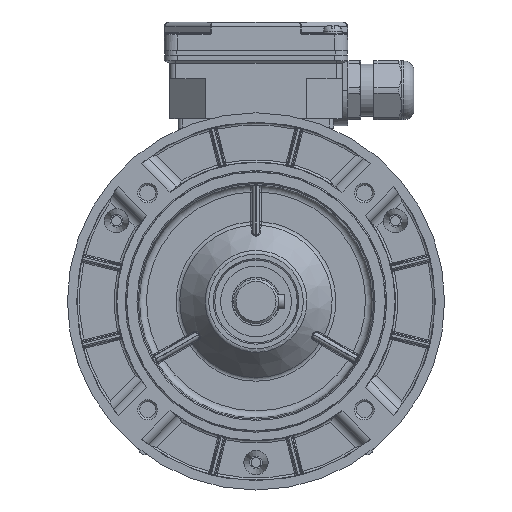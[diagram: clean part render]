
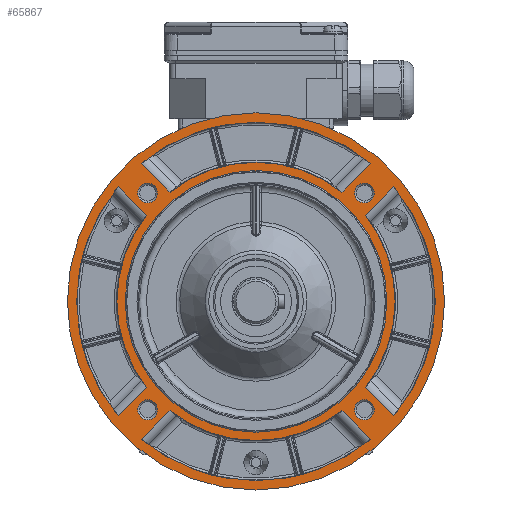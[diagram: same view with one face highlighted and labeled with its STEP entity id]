
A CAD part, left-side view. The second image highlights one B-rep face of the part: STEP entity #65867.
In plain terms, the highlighted planar face has unit normal (-1, 0, 0).
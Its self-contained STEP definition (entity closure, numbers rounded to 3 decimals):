
#3384=LINE('',#97045,#6656);
#3385=LINE('',#97050,#6657);
#3386=LINE('',#97056,#6658);
#3387=LINE('',#97060,#6659);
#3388=LINE('',#97061,#6660);
#3389=LINE('',#97066,#6661);
#3390=LINE('',#97069,#6662);
#3391=LINE('',#97074,#6663);
#6656=VECTOR('',#76439,1000.);
#6657=VECTOR('',#76442,1000.);
#6658=VECTOR('',#76447,1000.);
#6659=VECTOR('',#76450,1000.);
#6660=VECTOR('',#76451,1000.);
#6661=VECTOR('',#76454,1000.);
#6662=VECTOR('',#76457,1000.);
#6663=VECTOR('',#76460,1000.);
#9521=PLANE('',#69291);
#14806=ORIENTED_EDGE('',*,*,#27267,.T.);
#14807=ORIENTED_EDGE('',*,*,#27268,.T.);
#14808=ORIENTED_EDGE('',*,*,#27269,.T.);
#14809=ORIENTED_EDGE('',*,*,#27270,.T.);
#14810=ORIENTED_EDGE('',*,*,#27271,.T.);
#14811=ORIENTED_EDGE('',*,*,#27245,.T.);
#14812=ORIENTED_EDGE('',*,*,#27272,.T.);
#14813=ORIENTED_EDGE('',*,*,#27273,.T.);
#14814=ORIENTED_EDGE('',*,*,#27274,.F.);
#14815=ORIENTED_EDGE('',*,*,#27275,.F.);
#14816=ORIENTED_EDGE('',*,*,#27276,.T.);
#14817=ORIENTED_EDGE('',*,*,#27277,.F.);
#14818=ORIENTED_EDGE('',*,*,#27278,.F.);
#14819=ORIENTED_EDGE('',*,*,#27279,.T.);
#14820=ORIENTED_EDGE('',*,*,#27280,.T.);
#14821=ORIENTED_EDGE('',*,*,#27281,.T.);
#14822=ORIENTED_EDGE('',*,*,#27282,.F.);
#14823=ORIENTED_EDGE('',*,*,#27283,.F.);
#14824=ORIENTED_EDGE('',*,*,#27284,.T.);
#14825=ORIENTED_EDGE('',*,*,#27285,.T.);
#14826=ORIENTED_EDGE('',*,*,#27286,.F.);
#14827=ORIENTED_EDGE('',*,*,#27287,.F.);
#27245=EDGE_CURVE('',#33829,#33829,#37834,.T.);
#27267=EDGE_CURVE('',#33835,#33835,#37850,.F.);
#27268=EDGE_CURVE('',#33836,#33836,#37851,.F.);
#27269=EDGE_CURVE('',#33837,#33837,#37852,.F.);
#27270=EDGE_CURVE('',#33838,#33838,#37853,.F.);
#27271=EDGE_CURVE('',#33839,#33839,#37854,.F.);
#27272=EDGE_CURVE('',#33840,#33841,#3384,.T.);
#27273=EDGE_CURVE('',#33841,#33842,#37855,.T.);
#27274=EDGE_CURVE('',#33843,#33842,#3385,.T.);
#27275=EDGE_CURVE('',#33840,#33843,#37856,.T.);
#27276=EDGE_CURVE('',#33844,#33845,#37857,.T.);
#27277=EDGE_CURVE('',#33846,#33845,#3386,.T.);
#27278=EDGE_CURVE('',#33847,#33846,#37858,.T.);
#27279=EDGE_CURVE('',#33847,#33844,#3387,.T.);
#27280=EDGE_CURVE('',#33848,#33849,#3388,.T.);
#27281=EDGE_CURVE('',#33849,#33850,#37859,.T.);
#27282=EDGE_CURVE('',#33851,#33850,#3389,.T.);
#27283=EDGE_CURVE('',#33848,#33851,#37860,.T.);
#27284=EDGE_CURVE('',#33852,#33853,#3390,.T.);
#27285=EDGE_CURVE('',#33853,#33854,#37861,.T.);
#27286=EDGE_CURVE('',#33855,#33854,#3391,.T.);
#27287=EDGE_CURVE('',#33852,#33855,#37862,.T.);
#33829=VERTEX_POINT('',#96974);
#33835=VERTEX_POINT('',#97036);
#33836=VERTEX_POINT('',#97038);
#33837=VERTEX_POINT('',#97040);
#33838=VERTEX_POINT('',#97042);
#33839=VERTEX_POINT('',#97044);
#33840=VERTEX_POINT('',#97046);
#33841=VERTEX_POINT('',#97047);
#33842=VERTEX_POINT('',#97049);
#33843=VERTEX_POINT('',#97051);
#33844=VERTEX_POINT('',#97054);
#33845=VERTEX_POINT('',#97055);
#33846=VERTEX_POINT('',#97057);
#33847=VERTEX_POINT('',#97059);
#33848=VERTEX_POINT('',#97062);
#33849=VERTEX_POINT('',#97063);
#33850=VERTEX_POINT('',#97065);
#33851=VERTEX_POINT('',#97067);
#33852=VERTEX_POINT('',#97070);
#33853=VERTEX_POINT('',#97071);
#33854=VERTEX_POINT('',#97073);
#33855=VERTEX_POINT('',#97075);
#37834=CIRCLE('',#69254,80.);
#37850=CIRCLE('',#69292,55.5);
#37851=CIRCLE('',#69293,4.2);
#37852=CIRCLE('',#69294,4.2);
#37853=CIRCLE('',#69295,4.2);
#37854=CIRCLE('',#69296,4.2);
#37855=CIRCLE('',#69297,59.);
#37856=CIRCLE('',#69298,76.);
#37857=CIRCLE('',#69299,59.);
#37858=CIRCLE('',#69300,76.);
#37859=CIRCLE('',#69301,59.);
#37860=CIRCLE('',#69302,76.);
#37861=CIRCLE('',#69303,59.);
#37862=CIRCLE('',#69304,76.);
#40344=EDGE_LOOP('',(#14806));
#40345=EDGE_LOOP('',(#14807));
#40346=EDGE_LOOP('',(#14808));
#40347=EDGE_LOOP('',(#14809));
#40348=EDGE_LOOP('',(#14810));
#40349=EDGE_LOOP('',(#14811));
#40350=EDGE_LOOP('',(#14812,#14813,#14814,#14815));
#40351=EDGE_LOOP('',(#14816,#14817,#14818,#14819));
#40352=EDGE_LOOP('',(#14820,#14821,#14822,#14823));
#40353=EDGE_LOOP('',(#14824,#14825,#14826,#14827));
#43617=FACE_BOUND('',#40344,.T.);
#43618=FACE_BOUND('',#40345,.T.);
#43619=FACE_BOUND('',#40346,.T.);
#43620=FACE_BOUND('',#40347,.T.);
#43621=FACE_BOUND('',#40348,.T.);
#43622=FACE_BOUND('',#40349,.T.);
#43623=FACE_BOUND('',#40350,.T.);
#43624=FACE_BOUND('',#40351,.T.);
#43625=FACE_BOUND('',#40352,.T.);
#43626=FACE_BOUND('',#40353,.T.);
#65867=ADVANCED_FACE('',(#43617,#43618,#43619,#43620,#43621,#43622,#43623,
#43624,#43625,#43626),#9521,.T.);
#69254=AXIS2_PLACEMENT_3D('',#96973,#76349,#76350);
#69291=AXIS2_PLACEMENT_3D('',#97034,#76427,#76428);
#69292=AXIS2_PLACEMENT_3D('',#97035,#76429,#76430);
#69293=AXIS2_PLACEMENT_3D('',#97037,#76431,#76432);
#69294=AXIS2_PLACEMENT_3D('',#97039,#76433,#76434);
#69295=AXIS2_PLACEMENT_3D('',#97041,#76435,#76436);
#69296=AXIS2_PLACEMENT_3D('',#97043,#76437,#76438);
#69297=AXIS2_PLACEMENT_3D('',#97048,#76440,#76441);
#69298=AXIS2_PLACEMENT_3D('',#97052,#76443,#76444);
#69299=AXIS2_PLACEMENT_3D('',#97053,#76445,#76446);
#69300=AXIS2_PLACEMENT_3D('',#97058,#76448,#76449);
#69301=AXIS2_PLACEMENT_3D('',#97064,#76452,#76453);
#69302=AXIS2_PLACEMENT_3D('',#97068,#76455,#76456);
#69303=AXIS2_PLACEMENT_3D('',#97072,#76458,#76459);
#69304=AXIS2_PLACEMENT_3D('',#97076,#76461,#76462);
#76349=DIRECTION('',(-1.,0.,0.));
#76350=DIRECTION('',(0.,1.,0.));
#76427=DIRECTION('',(-1.,0.,0.));
#76428=DIRECTION('',(0.,-1.,0.));
#76429=DIRECTION('',(-1.,0.,0.));
#76430=DIRECTION('',(0.,-1.,0.));
#76431=DIRECTION('',(-1.,0.,0.));
#76432=DIRECTION('',(0.,-1.,0.));
#76433=DIRECTION('',(-1.,0.,0.));
#76434=DIRECTION('',(0.,-1.,0.));
#76435=DIRECTION('',(-1.,0.,0.));
#76436=DIRECTION('',(0.,-1.,0.));
#76437=DIRECTION('',(-1.,0.,0.));
#76438=DIRECTION('',(0.,-1.,0.));
#76439=DIRECTION('',(0.,0.707,0.707));
#76440=DIRECTION('',(-1.,0.,0.));
#76441=DIRECTION('',(0.,0.,1.));
#76442=DIRECTION('',(0.,0.707,-0.707));
#76443=DIRECTION('',(-1.,0.,0.));
#76444=DIRECTION('',(0.,0.,1.));
#76445=DIRECTION('',(-1.,0.,0.));
#76446=DIRECTION('',(0.,0.,1.));
#76447=DIRECTION('',(0.,0.707,0.707));
#76448=DIRECTION('',(-1.,0.,0.));
#76449=DIRECTION('',(0.,0.,1.));
#76450=DIRECTION('',(0.,-0.707,0.707));
#76451=DIRECTION('',(0.,0.707,-0.707));
#76452=DIRECTION('',(-1.,0.,0.));
#76453=DIRECTION('',(0.,0.,1.));
#76454=DIRECTION('',(0.,-0.707,-0.707));
#76455=DIRECTION('',(-1.,0.,0.));
#76456=DIRECTION('',(0.,0.,1.));
#76457=DIRECTION('',(0.,-0.707,-0.707));
#76458=DIRECTION('',(-1.,0.,0.));
#76459=DIRECTION('',(0.,0.,1.));
#76460=DIRECTION('',(0.,-0.707,0.707));
#76461=DIRECTION('',(-1.,0.,0.));
#76462=DIRECTION('',(0.,0.,1.));
#96973=CARTESIAN_POINT('',(-44.8,0.,0.));
#96974=CARTESIAN_POINT('',(-44.8,80.,0.));
#97034=CARTESIAN_POINT('',(-44.8,0.,0.));
#97035=CARTESIAN_POINT('',(-44.8,0.,0.));
#97036=CARTESIAN_POINT('',(-44.8,-55.5,0.));
#97037=CARTESIAN_POINT('',(-44.8,-45.962,-45.962));
#97038=CARTESIAN_POINT('',(-44.8,-50.162,-45.962));
#97039=CARTESIAN_POINT('',(-44.8,-45.962,45.962));
#97040=CARTESIAN_POINT('',(-44.8,-50.162,45.962));
#97041=CARTESIAN_POINT('',(-44.8,45.962,45.962));
#97042=CARTESIAN_POINT('',(-44.8,41.762,45.962));
#97043=CARTESIAN_POINT('',(-44.8,45.962,-45.962));
#97044=CARTESIAN_POINT('',(-44.8,41.762,-45.962));
#97045=CARTESIAN_POINT('',(-44.8,-70.057,-60.157));
#97046=CARTESIAN_POINT('',(-44.8,-58.461,-48.562));
#97047=CARTESIAN_POINT('',(-44.8,-46.374,-36.475));
#97048=CARTESIAN_POINT('',(-44.8,0.,0.));
#97049=CARTESIAN_POINT('',(-44.8,-46.374,36.475));
#97050=CARTESIAN_POINT('',(-44.8,-70.057,60.157));
#97051=CARTESIAN_POINT('',(-44.8,-58.461,48.562));
#97052=CARTESIAN_POINT('',(-44.8,0.,0.));
#97053=CARTESIAN_POINT('',(-44.8,0.,0.));
#97054=CARTESIAN_POINT('',(-44.8,36.475,-46.374));
#97055=CARTESIAN_POINT('',(-44.8,-36.475,-46.374));
#97056=CARTESIAN_POINT('',(-44.8,-60.157,-70.057));
#97057=CARTESIAN_POINT('',(-44.8,-48.562,-58.461));
#97058=CARTESIAN_POINT('',(-44.8,0.,0.));
#97059=CARTESIAN_POINT('',(-44.8,48.562,-58.461));
#97060=CARTESIAN_POINT('',(-44.8,60.157,-70.057));
#97061=CARTESIAN_POINT('',(-44.8,-60.157,70.057));
#97062=CARTESIAN_POINT('',(-44.8,-48.562,58.461));
#97063=CARTESIAN_POINT('',(-44.8,-36.475,46.374));
#97064=CARTESIAN_POINT('',(-44.8,0.,0.));
#97065=CARTESIAN_POINT('',(-44.8,36.475,46.374));
#97066=CARTESIAN_POINT('',(-44.8,60.157,70.057));
#97067=CARTESIAN_POINT('',(-44.8,48.562,58.461));
#97068=CARTESIAN_POINT('',(-44.8,0.,0.));
#97069=CARTESIAN_POINT('',(-44.8,70.057,60.157));
#97070=CARTESIAN_POINT('',(-44.8,58.461,48.562));
#97071=CARTESIAN_POINT('',(-44.8,46.374,36.475));
#97072=CARTESIAN_POINT('',(-44.8,0.,0.));
#97073=CARTESIAN_POINT('',(-44.8,46.374,-36.475));
#97074=CARTESIAN_POINT('',(-44.8,70.057,-60.157));
#97075=CARTESIAN_POINT('',(-44.8,58.461,-48.562));
#97076=CARTESIAN_POINT('',(-44.8,0.,0.));
